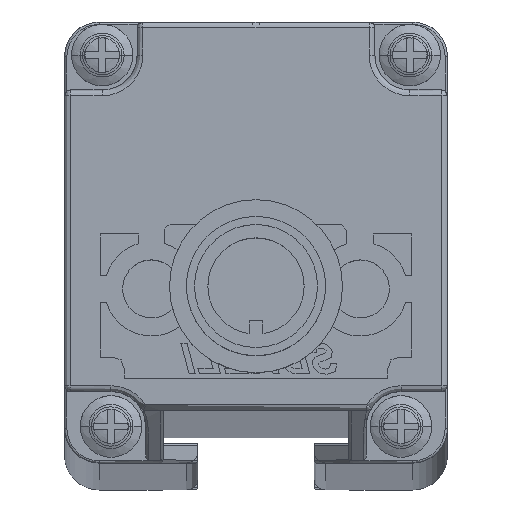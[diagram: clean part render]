
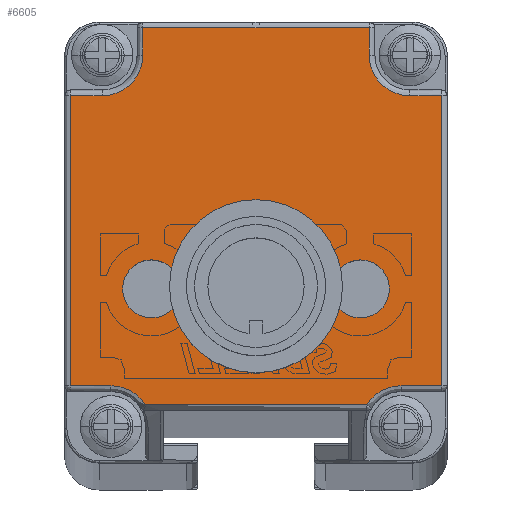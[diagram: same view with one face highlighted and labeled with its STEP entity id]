
A CAD part, top view. The second image highlights one B-rep face of the part: STEP entity #6605.
In plain terms, the highlighted planar face has unit normal (0, 0, 1).
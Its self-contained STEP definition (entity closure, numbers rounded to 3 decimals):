
#2629=CARTESIAN_POINT('',(0.65,-8.054,
1205.276));
#2630=DIRECTION('',(0.,0.,1.));
#2631=DIRECTION('',(1.,0.,0.));
#2632=AXIS2_PLACEMENT_3D('',#2629,#2630,#2631);
#2634=CARTESIAN_POINT('',(0.65,-8.054,
1205.276));
#2635=DIRECTION('',(0.,0.,1.));
#2636=DIRECTION('',(-1.,0.,0.));
#2637=AXIS2_PLACEMENT_3D('',#2634,#2635,#2636);
#2639=CARTESIAN_POINT('',(9.65,-8.055,1205.276));
#2640=DIRECTION('',(0.,0.,1.));
#2641=DIRECTION('',(1.,-0.007,0.));
#2642=AXIS2_PLACEMENT_3D('',#2639,#2640,#2641);
#2644=CARTESIAN_POINT('',(9.65,-8.055,1205.276));
#2645=DIRECTION('',(0.,0.,1.));
#2646=DIRECTION('',(-1.,0.007,0.));
#2647=AXIS2_PLACEMENT_3D('',#2644,#2645,#2646);
#2649=CARTESIAN_POINT('',(-8.35,-8.054,
1205.276));
#2650=DIRECTION('',(0.,0.,1.));
#2651=DIRECTION('',(1.,0.007,0.));
#2652=AXIS2_PLACEMENT_3D('',#2649,#2650,#2651);
#2654=CARTESIAN_POINT('',(-8.35,-8.054,
1205.276));
#2655=DIRECTION('',(0.,0.,1.));
#2656=DIRECTION('',(-1.,-0.007,0.));
#2657=AXIS2_PLACEMENT_3D('',#2654,#2655,#2656);
#2659=CARTESIAN_POINT('',(-11.85,-19.904,
1205.276));
#2660=DIRECTION('',(0.,0.,1.));
#2661=DIRECTION('',(0.849,0.528,0.));
#2662=AXIS2_PLACEMENT_3D('',#2659,#2660,#2661);
#2664=CARTESIAN_POINT('',(-12.6,12.094,1205.276));
#2665=DIRECTION('',(0.,0.,1.));
#2666=DIRECTION('',(0.,-1.,0.));
#2667=AXIS2_PLACEMENT_3D('',#2664,#2665,#2666);
#2669=CARTESIAN_POINT('',(13.9,12.094,1205.276));
#2670=DIRECTION('',(0.,0.,1.));
#2671=DIRECTION('',(-1.,0.,0.));
#2672=AXIS2_PLACEMENT_3D('',#2669,#2670,#2671);
#2674=CARTESIAN_POINT('',(13.15,-19.904,1205.276));
#2675=DIRECTION('',(0.,0.,1.));
#2676=DIRECTION('',(0.,1.,0.));
#2677=AXIS2_PLACEMENT_3D('',#2674,#2675,#2676);
#4225=DIRECTION('',(1.,0.,0.));
#4226=VECTOR('',#4225,19.056);
#4227=CARTESIAN_POINT('',(-8.878,-18.056,
1205.276));
#4228=LINE('',#4227,#4226);
#4893=DIRECTION('',(0.,1.,0.));
#4894=VECTOR('',#4893,2.35);
#4895=CARTESIAN_POINT('',(10.4,12.094,1205.276));
#4896=LINE('',#4895,#4894);
#4916=DIRECTION('',(-1.,0.,0.));
#4917=VECTOR('',#4916,19.5);
#4918=CARTESIAN_POINT('',(10.4,14.444,1205.276));
#4919=LINE('',#4918,#4917);
#4940=DIRECTION('',(0.,-1.,0.));
#4941=VECTOR('',#4940,2.35);
#4942=CARTESIAN_POINT('',(-9.1,14.444,1205.276));
#4943=LINE('',#4942,#4941);
#4967=DIRECTION('',(-1.,0.,0.));
#4968=VECTOR('',#4967,2.75);
#4969=CARTESIAN_POINT('',(-12.6,8.594,1205.276));
#4970=LINE('',#4969,#4968);
#4998=DIRECTION('',(0.,-1.,0.));
#4999=VECTOR('',#4998,24.998);
#5000=CARTESIAN_POINT('',(-15.35,8.594,1205.276));
#5001=LINE('',#5000,#4999);
#5022=DIRECTION('',(1.,0.,0.));
#5023=VECTOR('',#5022,3.5);
#5024=CARTESIAN_POINT('',(-15.35,-16.404,
1205.276));
#5025=LINE('',#5024,#5023);
#5086=DIRECTION('',(-1.,0.,0.));
#5087=VECTOR('',#5086,2.75);
#5088=CARTESIAN_POINT('',(16.65,8.594,1205.276));
#5089=LINE('',#5088,#5087);
#5326=DIRECTION('',(1.,0.,0.));
#5327=VECTOR('',#5326,3.5);
#5328=CARTESIAN_POINT('',(13.15,-16.404,1205.276));
#5329=LINE('',#5328,#5327);
#5357=DIRECTION('',(0.,1.,0.));
#5358=VECTOR('',#5357,24.998);
#5359=CARTESIAN_POINT('',(16.65,-16.404,1205.276));
#5360=LINE('',#5359,#5358);
#5721=CARTESIAN_POINT('',(12.15,-8.072,1205.276));
#5722=VERTEX_POINT('',#5721);
#5723=CARTESIAN_POINT('',(7.15,-8.039,1205.276));
#5724=VERTEX_POINT('',#5723);
#5725=CARTESIAN_POINT('',(-8.878,-18.056,
1205.276));
#5726=CARTESIAN_POINT('',(-11.85,-16.404,
1205.276));
#5727=VERTEX_POINT('',#5725);
#5728=VERTEX_POINT('',#5726);
#5729=CARTESIAN_POINT('',(-15.35,-16.404,
1205.276));
#5730=VERTEX_POINT('',#5729);
#5731=CARTESIAN_POINT('',(-15.35,8.594,1205.276));
#5732=VERTEX_POINT('',#5731);
#5733=CARTESIAN_POINT('',(-12.6,8.594,1205.276));
#5734=VERTEX_POINT('',#5733);
#5735=CARTESIAN_POINT('',(-9.1,12.094,1205.276));
#5736=VERTEX_POINT('',#5735);
#5737=CARTESIAN_POINT('',(-9.1,14.444,1205.276));
#5738=VERTEX_POINT('',#5737);
#5739=CARTESIAN_POINT('',(10.4,14.444,1205.276));
#5740=VERTEX_POINT('',#5739);
#5741=CARTESIAN_POINT('',(10.4,12.094,1205.276));
#5742=VERTEX_POINT('',#5741);
#5743=CARTESIAN_POINT('',(13.9,8.594,1205.276));
#5744=VERTEX_POINT('',#5743);
#5745=CARTESIAN_POINT('',(16.65,8.594,1205.276));
#5746=VERTEX_POINT('',#5745);
#5747=CARTESIAN_POINT('',(16.65,-16.404,1205.276));
#5748=VERTEX_POINT('',#5747);
#5749=CARTESIAN_POINT('',(13.15,-16.404,1205.276));
#5750=VERTEX_POINT('',#5749);
#5751=CARTESIAN_POINT('',(10.178,-18.056,1205.276));
#5752=VERTEX_POINT('',#5751);
#5753=CARTESIAN_POINT('',(-5.85,-8.037,
1205.276));
#5754=CARTESIAN_POINT('',(-10.85,-8.07,
1205.276));
#5755=VERTEX_POINT('',#5753);
#5756=VERTEX_POINT('',#5754);
#5757=CARTESIAN_POINT('',(3.65,-8.054,1205.276));
#5758=CARTESIAN_POINT('',(-2.35,-8.054,
1205.276));
#5759=VERTEX_POINT('',#5757);
#5760=VERTEX_POINT('',#5758);
#6554=CARTESIAN_POINT('',(0.65,0.944,
1205.276));
#6555=DIRECTION('',(0.,0.,1.));
#6556=DIRECTION('',(1.,0.,0.));
#6557=AXIS2_PLACEMENT_3D('',#6554,#6555,#6556);
#6558=PLANE('',#6557);
#6560=ORIENTED_EDGE('',*,*,#6559,.T.);
#6562=ORIENTED_EDGE('',*,*,#6561,.F.);
#6564=ORIENTED_EDGE('',*,*,#6563,.F.);
#6566=ORIENTED_EDGE('',*,*,#6565,.F.);
#6568=ORIENTED_EDGE('',*,*,#6567,.T.);
#6570=ORIENTED_EDGE('',*,*,#6569,.F.);
#6572=ORIENTED_EDGE('',*,*,#6571,.F.);
#6574=ORIENTED_EDGE('',*,*,#6573,.F.);
#6576=ORIENTED_EDGE('',*,*,#6575,.T.);
#6578=ORIENTED_EDGE('',*,*,#6577,.F.);
#6580=ORIENTED_EDGE('',*,*,#6579,.F.);
#6582=ORIENTED_EDGE('',*,*,#6581,.F.);
#6584=ORIENTED_EDGE('',*,*,#6583,.T.);
#6586=ORIENTED_EDGE('',*,*,#6585,.F.);
#6587=EDGE_LOOP('',(#6560,#6562,#6564,#6566,#6568,#6570,#6572,#6574,#6576,#6578,
#6580,#6582,#6584,#6586));
#6588=FACE_OUTER_BOUND('',#6587,.F.);
#6589=ORIENTED_EDGE('',*,*,#6541,.T.);
#6590=ORIENTED_EDGE('',*,*,#6502,.T.);
#6591=EDGE_LOOP('',(#6589,#6590));
#6592=FACE_BOUND('',#6591,.F.);
#6594=ORIENTED_EDGE('',*,*,#6593,.T.);
#6596=ORIENTED_EDGE('',*,*,#6595,.T.);
#6597=EDGE_LOOP('',(#6594,#6596));
#6598=FACE_BOUND('',#6597,.F.);
#6600=ORIENTED_EDGE('',*,*,#6599,.T.);
#6602=ORIENTED_EDGE('',*,*,#6601,.T.);
#6603=EDGE_LOOP('',(#6600,#6602));
#6604=FACE_BOUND('',#6603,.F.);
#2633=CIRCLE('',#2632,3.);
#2638=CIRCLE('',#2637,3.);
#2643=CIRCLE('',#2642,2.5);
#2648=CIRCLE('',#2647,2.5);
#2653=CIRCLE('',#2652,2.5);
#2658=CIRCLE('',#2657,2.5);
#2663=CIRCLE('',#2662,3.5);
#2668=CIRCLE('',#2667,3.5);
#2673=CIRCLE('',#2672,3.5);
#2678=CIRCLE('',#2677,3.5);
#6502=EDGE_CURVE('',#5724,#5722,#2648,.T.);
#6541=EDGE_CURVE('',#5722,#5724,#2643,.T.);
#6559=EDGE_CURVE('',#5727,#5728,#2663,.T.);
#6561=EDGE_CURVE('',#5730,#5728,#5025,.T.);
#6563=EDGE_CURVE('',#5732,#5730,#5001,.T.);
#6565=EDGE_CURVE('',#5734,#5732,#4970,.T.);
#6567=EDGE_CURVE('',#5734,#5736,#2668,.T.);
#6569=EDGE_CURVE('',#5738,#5736,#4943,.T.);
#6571=EDGE_CURVE('',#5740,#5738,#4919,.T.);
#6573=EDGE_CURVE('',#5742,#5740,#4896,.T.);
#6575=EDGE_CURVE('',#5742,#5744,#2673,.T.);
#6577=EDGE_CURVE('',#5746,#5744,#5089,.T.);
#6579=EDGE_CURVE('',#5748,#5746,#5360,.T.);
#6581=EDGE_CURVE('',#5750,#5748,#5329,.T.);
#6583=EDGE_CURVE('',#5750,#5752,#2678,.T.);
#6585=EDGE_CURVE('',#5727,#5752,#4228,.T.);
#6593=EDGE_CURVE('',#5755,#5756,#2653,.T.);
#6595=EDGE_CURVE('',#5756,#5755,#2658,.T.);
#6599=EDGE_CURVE('',#5759,#5760,#2633,.T.);
#6601=EDGE_CURVE('',#5760,#5759,#2638,.T.);
#6605=ADVANCED_FACE('',(#6588,#6592,#6598,#6604),#6558,.T.);
